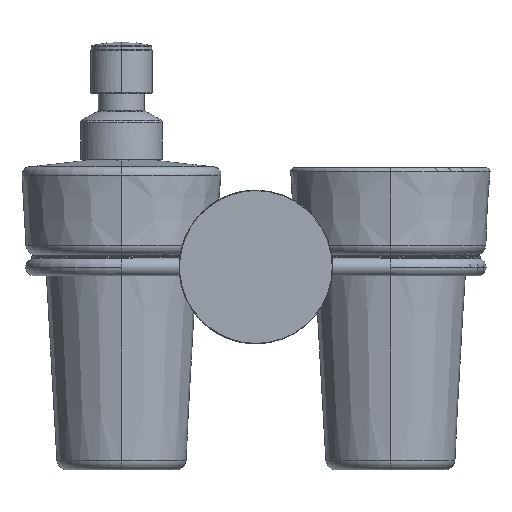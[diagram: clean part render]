
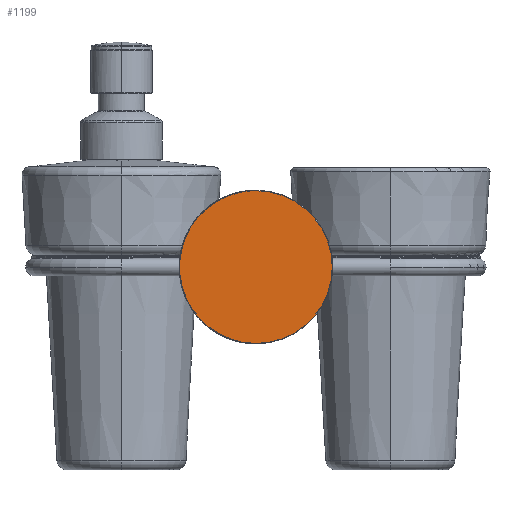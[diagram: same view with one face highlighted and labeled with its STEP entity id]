
A CAD part, front view. The second image highlights one B-rep face of the part: STEP entity #1199.
In plain terms, the highlighted planar face has unit normal (0, -1, 0).
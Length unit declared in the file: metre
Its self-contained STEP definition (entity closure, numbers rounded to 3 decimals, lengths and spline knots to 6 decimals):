
#62=EDGE_CURVE('',#63,#65,#67,.F.);
#63=VERTEX_POINT('',#64);
#64=CARTESIAN_POINT('',(0.0,-0.014,-0.0298));
#65=VERTEX_POINT('',#66);
#66=CARTESIAN_POINT('',(0.0,-0.014,0.0298));
#67=CIRCLE('',#68,0.0298);
#68=AXIS2_PLACEMENT_3D('',#69,#70,#71);
#69=CARTESIAN_POINT('',(0.0,-0.014,0.0));
#70=DIRECTION('',(0.0,1.0,0.0));
#71=DIRECTION('',(0.0,0.0,1.0));
#1199=ADVANCED_FACE('',(#1205),#1200,.F.);
#1200=PLANE('',#1201);
#1201=AXIS2_PLACEMENT_3D('',#1202,#1203,#1204);
#1202=CARTESIAN_POINT('',(0.0,-0.014,0.03));
#1203=DIRECTION('',(0.0,1.0,0.0));
#1204=DIRECTION('',(0.0,0.0,1.0));
#1205=FACE_OUTER_BOUND('',#1206,.T.);
#1206=EDGE_LOOP('',(#1207,#1215));
#1207=ORIENTED_EDGE('',*,*,#1209,.T.);
#1208=CARTESIAN_POINT('',(0.0,-0.014,-0.0298));
#1209=EDGE_CURVE('',#65,#63,#1210,.F.);
#1210=(B_SPLINE_CURVE(3,(#1208,#1211,#1212,#1213),.UNSPECIFIED.,.F.,.U.)B_SPLINE_CURVE_WITH_KNOTS(
  (4,4),(0.0,1.0),.UNSPECIFIED.)BOUNDED_CURVE()CURVE()GEOMETRIC_REPRESENTATION_ITEM(
  )RATIONAL_B_SPLINE_CURVE((1.0,0.333,0.333,1.0)
  )REPRESENTATION_ITEM(''));
#1211=CARTESIAN_POINT('',(-0.0596,-0.014,-0.0298));
#1212=CARTESIAN_POINT('',(-0.0596,-0.014,0.0298));
#1213=CARTESIAN_POINT('',(0.0,-0.014,0.0298));
#1215=ORIENTED_EDGE('',*,*,#62,.T.);
